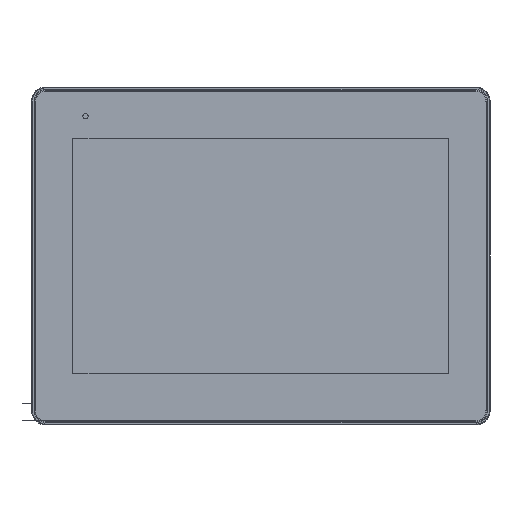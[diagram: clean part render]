
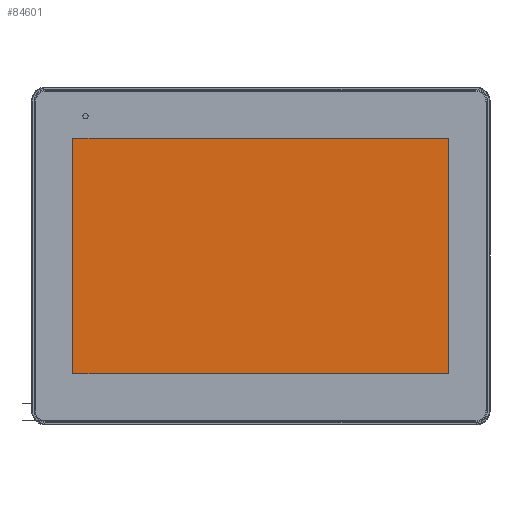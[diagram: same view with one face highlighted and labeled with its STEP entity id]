
A CAD part, top view. The second image highlights one B-rep face of the part: STEP entity #84601.
In plain terms, the highlighted planar face has unit normal (0, 0, 1).
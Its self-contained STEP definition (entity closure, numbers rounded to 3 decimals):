
#1563 = DIRECTION ( 'NONE',  ( 0., 1., 0. ) ) ;
#2677 = CARTESIAN_POINT ( 'NONE',  ( 108.98, 68.3, 6.4 ) ) ;
#4061 = VERTEX_POINT ( 'NONE', #7246 ) ;
#5053 = DIRECTION ( 'NONE',  ( 0., -1., 0. ) ) ;
#6397 = ORIENTED_EDGE ( 'NONE', *, *, #83975, .T. ) ;
#6578 = VERTEX_POINT ( 'NONE', #78676 ) ;
#7246 = CARTESIAN_POINT ( 'NONE',  ( -108.98, -68.3, 6.4 ) ) ;
#7898 = EDGE_LOOP ( 'NONE', ( #80846, #6397, #74831, #8385 ) ) ;
#8385 = ORIENTED_EDGE ( 'NONE', *, *, #40255, .T. ) ;
#8664 = LINE ( 'NONE', #38466, #85456 ) ;
#14536 = EDGE_CURVE ( 'NONE', #44062, #67528, #38741, .T. ) ;
#19766 = LINE ( 'NONE', #72144, #36622 ) ;
#23132 = CARTESIAN_POINT ( 'NONE',  ( 113.339, 71.032, 6.4 ) ) ;
#36622 = VECTOR ( 'NONE', #5053, 1000. ) ;
#37276 = PLANE ( 'NONE',  #87624 ) ;
#38466 = CARTESIAN_POINT ( 'NONE',  ( 0., -68.3, 6.4 ) ) ;
#38741 = LINE ( 'NONE', #68658, #96167 ) ;
#40255 = EDGE_CURVE ( 'NONE', #67528, #6578, #55437, .T. ) ;
#44062 = VERTEX_POINT ( 'NONE', #72819 ) ;
#48863 = EDGE_CURVE ( 'NONE', #6578, #4061, #19766, .T. ) ;
#52940 = DIRECTION ( 'NONE',  ( 0., 0., 1. ) ) ;
#55437 = LINE ( 'NONE', #63800, #76798 ) ;
#63800 = CARTESIAN_POINT ( 'NONE',  ( 0., 68.3, 6.4 ) ) ;
#67528 = VERTEX_POINT ( 'NONE', #2677 ) ;
#68400 = DIRECTION ( 'NONE',  ( 1., 0., 0. ) ) ;
#68658 = CARTESIAN_POINT ( 'NONE',  ( 108.98, 0., 6.4 ) ) ;
#72144 = CARTESIAN_POINT ( 'NONE',  ( -108.98, 0., 6.4 ) ) ;
#72819 = CARTESIAN_POINT ( 'NONE',  ( 108.98, -68.3, 6.4 ) ) ;
#74831 = ORIENTED_EDGE ( 'NONE', *, *, #14536, .T. ) ;
#76798 = VECTOR ( 'NONE', #93637, 1000. ) ;
#78676 = CARTESIAN_POINT ( 'NONE',  ( -108.98, 68.3, 6.4 ) ) ;
#80846 = ORIENTED_EDGE ( 'NONE', *, *, #48863, .T. ) ;
#81856 = FACE_OUTER_BOUND ( 'NONE', #7898, .T. ) ;
#82832 = DIRECTION ( 'NONE',  ( -1., 0., 0. ) ) ;
#83975 = EDGE_CURVE ( 'NONE', #4061, #44062, #8664, .T. ) ;
#84601 = ADVANCED_FACE ( 'NONE', ( #81856 ), #37276, .T. ) ;
#85456 = VECTOR ( 'NONE', #68400, 1000. ) ;
#87624 = AXIS2_PLACEMENT_3D ( 'NONE', #23132, #52940, #82832 ) ;
#93637 = DIRECTION ( 'NONE',  ( -1., 0., 0. ) ) ;
#96167 = VECTOR ( 'NONE', #1563, 1000. ) ;
